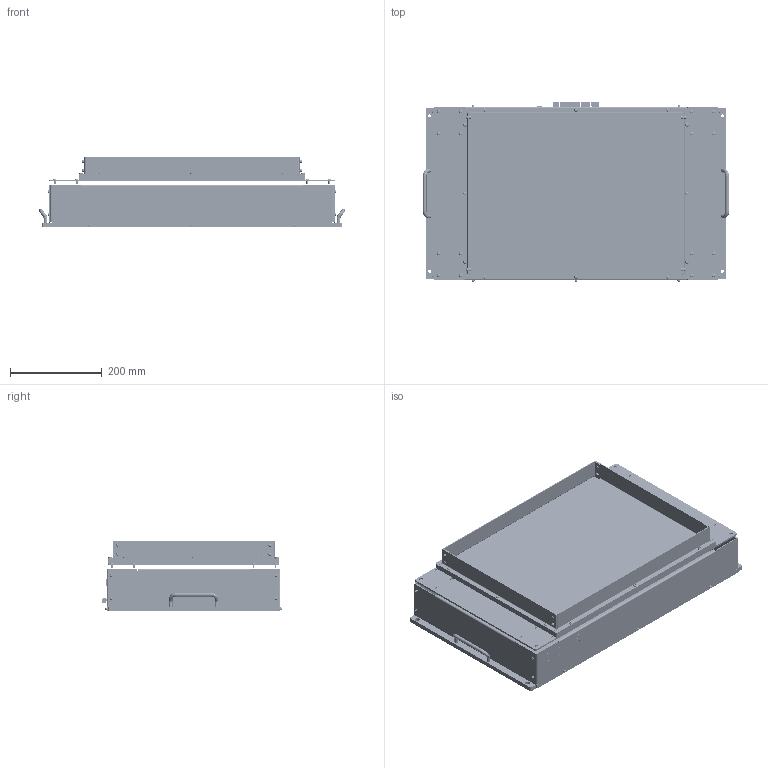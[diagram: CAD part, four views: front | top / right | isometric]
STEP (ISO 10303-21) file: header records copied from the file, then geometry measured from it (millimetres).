
FILE_DESCRIPTION (( 'STEP AP203' ), '1' );
FILE_NAME ('柔性振散盘,QFF-4735,500盘面.STEP', '2022-08-06T09:00:53', ( '' ), ( '' ), 'SwSTEP 2.0', 'SolidWorks 2017', '' );
FILE_SCHEMA (( 'CONFIG_CONTROL_DESIGN' ));
Products named in the file (1): 柔性振散盘,QFF-4735,500盘面
Bounding box: 669.3 x 393.08 x 154 mm (x, y, z)
Volume: 5141698.9 mm3; surface area: 1701572.8 mm2
Topology: 148 solids, 148 shells, 6416 faces, 15748 edges, 10248 vertices
Faces by surface type: plane 3466, cylinder 1376, bspline 1055, cone 369, torus 146, sphere 4
Entity records: 220986 total; most frequent: CARTESIAN_POINT 73455, ORIENTED_EDGE 31480, DIRECTION 27546, EDGE_CURVE 15740, VERTEX_POINT 10248, LINE 10034, VECTOR 10034, AXIS2_PLACEMENT_3D 8756
